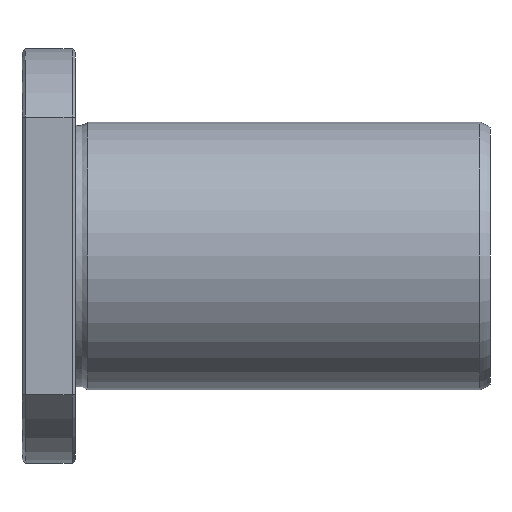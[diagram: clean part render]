
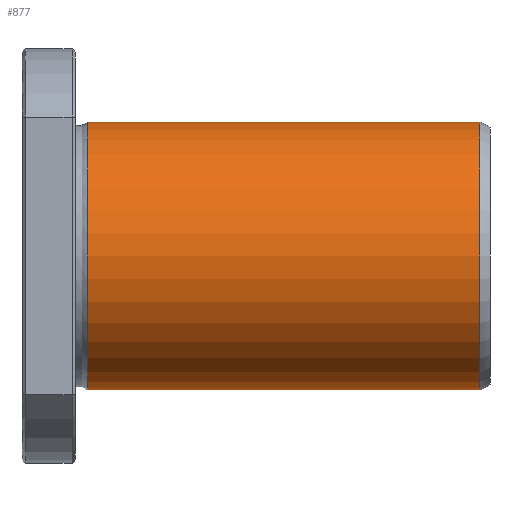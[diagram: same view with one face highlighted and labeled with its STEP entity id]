
A CAD part, front view. The second image highlights one B-rep face of the part: STEP entity #877.
In plain terms, the highlighted cylindrical face has radius 20 mm (diameter 40 mm), a full revolution.
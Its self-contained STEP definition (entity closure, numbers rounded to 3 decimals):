
#843=CARTESIAN_POINT('',(68.502,0.0,20.));
#844=VERTEX_POINT('',#843);
#845=CARTESIAN_POINT('',(68.502,0.0,0.0));
#846=DIRECTION('',(-1.0,0.0,0.0));
#847=DIRECTION('',(0.0,0.0,1.0));
#848=AXIS2_PLACEMENT_3D('',#845,#846,#847);
#849=CIRCLE('',#848,20.);
#850=EDGE_CURVE('',#844,#844,#849,.T.);
#858=CARTESIAN_POINT('',(39.162,0.0,0.0));
#859=DIRECTION('',(-1.0,0.0,0.0));
#860=DIRECTION('',(0.0,0.0,1.0));
#861=AXIS2_PLACEMENT_3D('',#858,#859,#860);
#862=CYLINDRICAL_SURFACE('',#861,20.);
#863=CARTESIAN_POINT('',(9.823,0.0,20.));
#864=VERTEX_POINT('',#863);
#865=CARTESIAN_POINT('',(9.823,0.0,0.0));
#866=DIRECTION('',(-1.0,0.0,0.0));
#867=DIRECTION('',(0.0,0.0,1.0));
#868=AXIS2_PLACEMENT_3D('',#865,#866,#867);
#869=CIRCLE('',#868,20.);
#870=EDGE_CURVE('',#864,#864,#869,.T.);
#871=ORIENTED_EDGE('',*,*,#870,.F.);
#872=EDGE_LOOP('',(#871));
#873=FACE_OUTER_BOUND('',#872,.T.);
#874=ORIENTED_EDGE('',*,*,#850,.T.);
#875=EDGE_LOOP('',(#874));
#876=FACE_BOUND('',#875,.T.);
#877=ADVANCED_FACE('',(#873,#876),#862,.T.);
